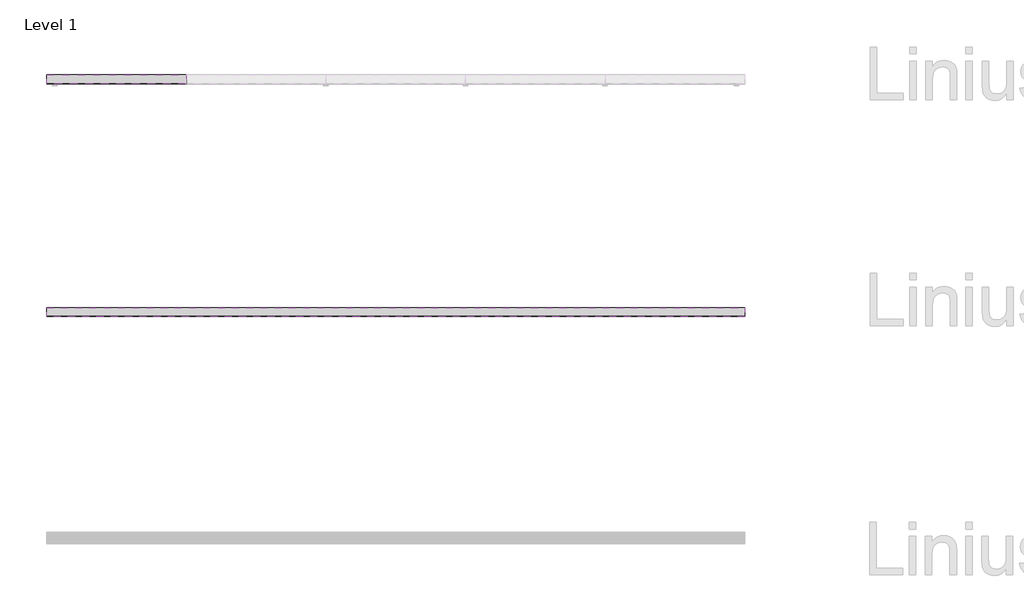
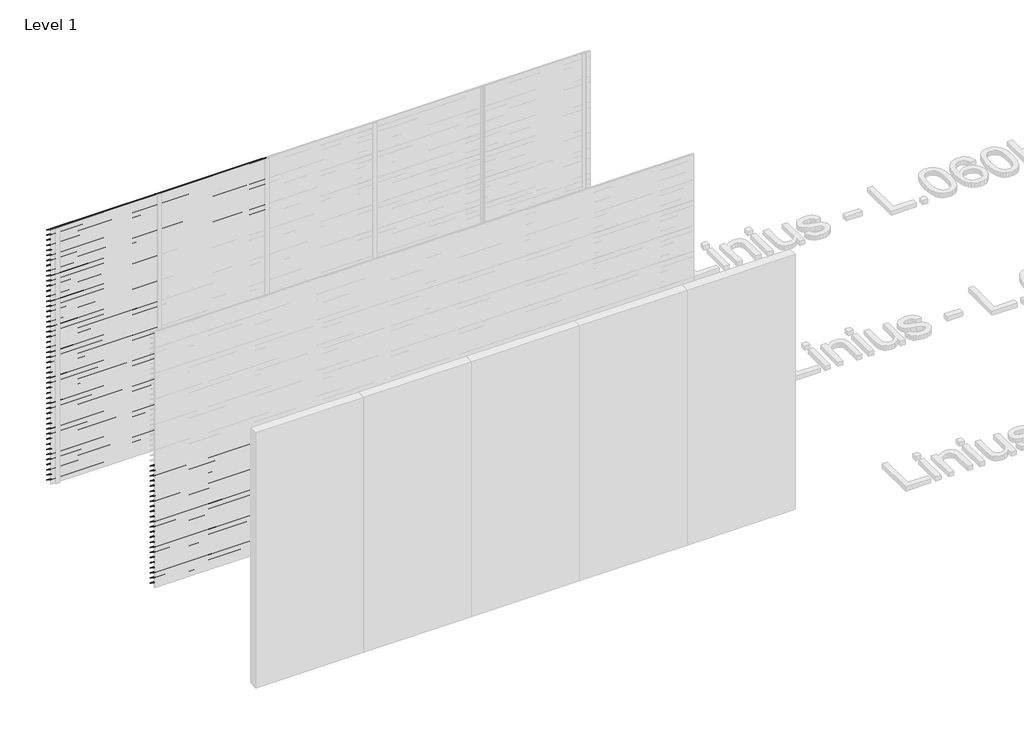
# One storey, part 72 of 153: 85 proxies.
"""IFC4 building model written with IfcOpenShell, lengths in millimetres."""

from ifc_helpers import new_model, si_unit, frame, origin, place, context, project, spatial, polyline, outline, extrude, element, save

model = new_model("IFC4")

# Units and contexts
model_context = context("Model", 3, world=origin())
ifc_project = project(units=[si_unit("LENGTHUNIT", "METRE", prefix="MILLI")], contexts=[model_context])

# Site, building, storey
site = spatial("IfcSite", under=ifc_project)
building = spatial("IfcBuilding", under=site)
storey = spatial("IfcBuildingStorey", under=building, Name="Level 1", Elevation=0.0)

# Proxies
placement = place(None, origin())
element("IfcBuildingElementProxy", 1, Name="Wall Sweeps", at=placement, inside=storey, context=model_context, shape_type="SweptSolid", body=[
    extrude(outline(polyline([(44061.0540136, 2946.0), (44061.0540136, 2940.0), (44059.8040136, 2940.7216933), (44059.8040136, 2945.2538091), (43983.0540136, 2993.9915103), (43983.0540136, 3000.0), (43984.3040136, 3000.0), (43984.3040136, 2994.7377012), (44061.0540136, 2946.0)])), frame((466.6208097, 0.0, 0.0), z_axis=(1.0, 0.0, 0.0), x_axis=(0.0, 1.0, 0.0)), (0.0, 0.0, 1.0), 1200.0000002),
])
element("IfcBuildingElementProxy", 2, Name="Wall Sweeps", at=placement, inside=storey, context=model_context, shape_type="SweptSolid", body=[
    extrude(outline(polyline([(44061.0540136, 2886.0), (44061.0540136, 2880.0), (44059.8040136, 2880.7216933), (44059.8040136, 2885.2538091), (43983.0540136, 2933.9915103), (43983.0540136, 2940.0), (43984.3040136, 2940.0), (43984.3040136, 2934.7377012), (44061.0540136, 2886.0)])), frame((466.6208097, 0.0, 0.0), z_axis=(1.0, 0.0, 0.0), x_axis=(0.0, 1.0, 0.0)), (0.0, 0.0, 1.0), 1200.0000002),
])
element("IfcBuildingElementProxy", 3, Name="Wall Sweeps", at=placement, inside=storey, context=model_context, shape_type="SweptSolid", body=[
    extrude(outline(polyline([(44061.0540136, 2826.0), (44061.0540136, 2820.0), (44059.8040136, 2820.7216933), (44059.8040136, 2825.2538091), (43983.0540136, 2873.9915103), (43983.0540136, 2880.0), (43984.3040136, 2880.0), (43984.3040136, 2874.7377012), (44061.0540136, 2826.0)])), frame((466.6208097, 0.0, 0.0), z_axis=(1.0, 0.0, 0.0), x_axis=(0.0, 1.0, 0.0)), (0.0, 0.0, 1.0), 1200.0000002),
])
element("IfcBuildingElementProxy", 4, Name="Wall Sweeps", at=placement, inside=storey, context=model_context, shape_type="SweptSolid", body=[
    extrude(outline(polyline([(44061.0540136, 2766.0), (44061.0540136, 2760.0), (44059.8040136, 2760.7216933), (44059.8040136, 2765.2538091), (43983.0540136, 2813.9915103), (43983.0540136, 2820.0), (43984.3040136, 2820.0), (43984.3040136, 2814.7377012), (44061.0540136, 2766.0)])), frame((466.6208097, 0.0, 0.0), z_axis=(1.0, 0.0, 0.0), x_axis=(0.0, 1.0, 0.0)), (0.0, 0.0, 1.0), 1200.0000002),
])
element("IfcBuildingElementProxy", 5, Name="Wall Sweeps", at=placement, inside=storey, context=model_context, shape_type="SweptSolid", body=[
    extrude(outline(polyline([(44061.0540136, 2706.0), (44061.0540136, 2700.0), (44059.8040136, 2700.7216933), (44059.8040136, 2705.2538091), (43983.0540136, 2753.9915103), (43983.0540136, 2760.0), (43984.3040136, 2760.0), (43984.3040136, 2754.7377012), (44061.0540136, 2706.0)])), frame((466.6208097, 0.0, 0.0), z_axis=(1.0, 0.0, 0.0), x_axis=(0.0, 1.0, 0.0)), (0.0, 0.0, 1.0), 1200.0000002),
])
element("IfcBuildingElementProxy", 6, Name="Wall Sweeps", at=placement, inside=storey, context=model_context, shape_type="SweptSolid", body=[
    extrude(outline(polyline([(44061.0540136, 2646.0), (44061.0540136, 2640.0), (44059.8040136, 2640.7216933), (44059.8040136, 2645.2538091), (43983.0540136, 2693.9915103), (43983.0540136, 2700.0), (43984.3040136, 2700.0), (43984.3040136, 2694.7377012), (44061.0540136, 2646.0)])), frame((466.6208097, 0.0, 0.0), z_axis=(1.0, 0.0, 0.0), x_axis=(0.0, 1.0, 0.0)), (0.0, 0.0, 1.0), 1200.0000002),
])
element("IfcBuildingElementProxy", 7, Name="Wall Sweeps", at=placement, inside=storey, context=model_context, shape_type="SweptSolid", body=[
    extrude(outline(polyline([(44061.0540136, 2586.0), (44061.0540136, 2580.0), (44059.8040136, 2580.7216933), (44059.8040136, 2585.2538091), (43983.0540136, 2633.9915103), (43983.0540136, 2640.0), (43984.3040136, 2640.0), (43984.3040136, 2634.7377012), (44061.0540136, 2586.0)])), frame((466.6208097, 0.0, 0.0), z_axis=(1.0, 0.0, 0.0), x_axis=(0.0, 1.0, 0.0)), (0.0, 0.0, 1.0), 1200.0000002),
])
element("IfcBuildingElementProxy", 8, Name="Wall Sweeps", at=placement, inside=storey, context=model_context, shape_type="SweptSolid", body=[
    extrude(outline(polyline([(44061.0540136, 2526.0), (44061.0540136, 2520.0), (44059.8040136, 2520.7216933), (44059.8040136, 2525.2538091), (43983.0540136, 2573.9915103), (43983.0540136, 2580.0), (43984.3040136, 2580.0), (43984.3040136, 2574.7377012), (44061.0540136, 2526.0)])), frame((466.6208097, 0.0, 0.0), z_axis=(1.0, 0.0, 0.0), x_axis=(0.0, 1.0, 0.0)), (0.0, 0.0, 1.0), 1200.0000002),
])
element("IfcBuildingElementProxy", 9, Name="Wall Sweeps", at=placement, inside=storey, context=model_context, shape_type="SweptSolid", body=[
    extrude(outline(polyline([(44061.0540136, 2466.0), (44061.0540136, 2460.0), (44059.8040136, 2460.7216933), (44059.8040136, 2465.2538091), (43983.0540136, 2513.9915103), (43983.0540136, 2520.0), (43984.3040136, 2520.0), (43984.3040136, 2514.7377012), (44061.0540136, 2466.0)])), frame((466.6208097, 0.0, 0.0), z_axis=(1.0, 0.0, 0.0), x_axis=(0.0, 1.0, 0.0)), (0.0, 0.0, 1.0), 1200.0000002),
])
element("IfcBuildingElementProxy", 10, Name="Wall Sweeps", at=placement, inside=storey, context=model_context, shape_type="SweptSolid", body=[
    extrude(outline(polyline([(44061.0540136, 2406.0), (44061.0540136, 2400.0), (44059.8040136, 2400.7216933), (44059.8040136, 2405.2538091), (43983.0540136, 2453.9915103), (43983.0540136, 2460.0), (43984.3040136, 2460.0), (43984.3040136, 2454.7377012), (44061.0540136, 2406.0)])), frame((466.6208097, 0.0, 0.0), z_axis=(1.0, 0.0, 0.0), x_axis=(0.0, 1.0, 0.0)), (0.0, 0.0, 1.0), 1200.0000002),
])
element("IfcBuildingElementProxy", 11, Name="Wall Sweeps", at=placement, inside=storey, context=model_context, shape_type="SweptSolid", body=[
    extrude(outline(polyline([(44061.0540136, 2346.0), (44061.0540136, 2340.0), (44059.8040136, 2340.7216933), (44059.8040136, 2345.2538091), (43983.0540136, 2393.9915103), (43983.0540136, 2400.0), (43984.3040136, 2400.0), (43984.3040136, 2394.7377012), (44061.0540136, 2346.0)])), frame((466.6208097, 0.0, 0.0), z_axis=(1.0, 0.0, 0.0), x_axis=(0.0, 1.0, 0.0)), (0.0, 0.0, 1.0), 1200.0000002),
])
element("IfcBuildingElementProxy", 12, Name="Wall Sweeps", at=placement, inside=storey, context=model_context, shape_type="SweptSolid", body=[
    extrude(outline(polyline([(44061.0540136, 2286.0), (44061.0540136, 2280.0), (44059.8040136, 2280.7216933), (44059.8040136, 2285.2538091), (43983.0540136, 2333.9915103), (43983.0540136, 2340.0), (43984.3040136, 2340.0), (43984.3040136, 2334.7377012), (44061.0540136, 2286.0)])), frame((466.6208097, 0.0, 0.0), z_axis=(1.0, 0.0, 0.0), x_axis=(0.0, 1.0, 0.0)), (0.0, 0.0, 1.0), 1200.0000002),
])
element("IfcBuildingElementProxy", 13, Name="Wall Sweeps", at=placement, inside=storey, context=model_context, shape_type="SweptSolid", body=[
    extrude(outline(polyline([(44061.0540136, 2226.0), (44061.0540136, 2220.0), (44059.8040136, 2220.7216933), (44059.8040136, 2225.2538091), (43983.0540136, 2273.9915103), (43983.0540136, 2280.0), (43984.3040136, 2280.0), (43984.3040136, 2274.7377012), (44061.0540136, 2226.0)])), frame((466.6208097, 0.0, 0.0), z_axis=(1.0, 0.0, 0.0), x_axis=(0.0, 1.0, 0.0)), (0.0, 0.0, 1.0), 1200.0000002),
])
element("IfcBuildingElementProxy", 14, Name="Wall Sweeps", at=placement, inside=storey, context=model_context, shape_type="SweptSolid", body=[
    extrude(outline(polyline([(44061.0540136, 2166.0), (44061.0540136, 2160.0), (44059.8040136, 2160.7216933), (44059.8040136, 2165.2538091), (43983.0540136, 2213.9915103), (43983.0540136, 2220.0), (43984.3040136, 2220.0), (43984.3040136, 2214.7377012), (44061.0540136, 2166.0)])), frame((466.6208097, 0.0, 0.0), z_axis=(1.0, 0.0, 0.0), x_axis=(0.0, 1.0, 0.0)), (0.0, 0.0, 1.0), 1200.0000002),
])
element("IfcBuildingElementProxy", 15, Name="Wall Sweeps", at=placement, inside=storey, context=model_context, shape_type="SweptSolid", body=[
    extrude(outline(polyline([(44061.0540136, 2106.0), (44061.0540136, 2100.0), (44059.8040136, 2100.7216933), (44059.8040136, 2105.2538091), (43983.0540136, 2153.9915103), (43983.0540136, 2160.0), (43984.3040136, 2160.0), (43984.3040136, 2154.7377012), (44061.0540136, 2106.0)])), frame((466.6208097, 0.0, 0.0), z_axis=(1.0, 0.0, 0.0), x_axis=(0.0, 1.0, 0.0)), (0.0, 0.0, 1.0), 1200.0000002),
])
element("IfcBuildingElementProxy", 16, Name="Wall Sweeps", at=placement, inside=storey, context=model_context, shape_type="SweptSolid", body=[
    extrude(outline(polyline([(44061.0540136, 2046.0), (44061.0540136, 2040.0), (44059.8040136, 2040.7216933), (44059.8040136, 2045.2538091), (43983.0540136, 2093.9915103), (43983.0540136, 2100.0), (43984.3040136, 2100.0), (43984.3040136, 2094.7377012), (44061.0540136, 2046.0)])), frame((466.6208097, 0.0, 0.0), z_axis=(1.0, 0.0, 0.0), x_axis=(0.0, 1.0, 0.0)), (0.0, 0.0, 1.0), 1200.0000002),
])
element("IfcBuildingElementProxy", 17, Name="Wall Sweeps", at=placement, inside=storey, context=model_context, shape_type="SweptSolid", body=[
    extrude(outline(polyline([(44061.0540136, 1986.0), (44061.0540136, 1980.0), (44059.8040136, 1980.7216933), (44059.8040136, 1985.2538091), (43983.0540136, 2033.9915103), (43983.0540136, 2040.0), (43984.3040136, 2040.0), (43984.3040136, 2034.7377012), (44061.0540136, 1986.0)])), frame((466.6208097, 0.0, 0.0), z_axis=(1.0, 0.0, 0.0), x_axis=(0.0, 1.0, 0.0)), (0.0, 0.0, 1.0), 1200.0000002),
])
element("IfcBuildingElementProxy", 18, Name="Wall Sweeps", at=placement, inside=storey, context=model_context, shape_type="SweptSolid", body=[
    extrude(outline(polyline([(44061.0540136, 1926.0), (44061.0540136, 1920.0), (44059.8040136, 1920.7216933), (44059.8040136, 1925.2538091), (43983.0540136, 1973.9915103), (43983.0540136, 1980.0), (43984.3040136, 1980.0), (43984.3040136, 1974.7377012), (44061.0540136, 1926.0)])), frame((466.6208097, 0.0, 0.0), z_axis=(1.0, 0.0, 0.0), x_axis=(0.0, 1.0, 0.0)), (0.0, 0.0, 1.0), 1200.0000002),
])
element("IfcBuildingElementProxy", 19, Name="Wall Sweeps", at=placement, inside=storey, context=model_context, shape_type="SweptSolid", body=[
    extrude(outline(polyline([(44061.0540136, 1866.0), (44061.0540136, 1860.0), (44059.8040136, 1860.7216933), (44059.8040136, 1865.2538091), (43983.0540136, 1913.9915103), (43983.0540136, 1920.0), (43984.3040136, 1920.0), (43984.3040136, 1914.7377012), (44061.0540136, 1866.0)])), frame((466.6208097, 0.0, 0.0), z_axis=(1.0, 0.0, 0.0), x_axis=(0.0, 1.0, 0.0)), (0.0, 0.0, 1.0), 1200.0000002),
])
element("IfcBuildingElementProxy", 20, Name="Wall Sweeps", at=placement, inside=storey, context=model_context, shape_type="SweptSolid", body=[
    extrude(outline(polyline([(44061.0540136, 1806.0), (44061.0540136, 1800.0), (44059.8040136, 1800.7216933), (44059.8040136, 1805.2538091), (43983.0540136, 1853.9915103), (43983.0540136, 1860.0), (43984.3040136, 1860.0), (43984.3040136, 1854.7377012), (44061.0540136, 1806.0)])), frame((466.6208097, 0.0, 0.0), z_axis=(1.0, 0.0, 0.0), x_axis=(0.0, 1.0, 0.0)), (0.0, 0.0, 1.0), 1200.0000002),
])
element("IfcBuildingElementProxy", 21, Name="Wall Sweeps", at=placement, inside=storey, context=model_context, shape_type="SweptSolid", body=[
    extrude(outline(polyline([(44061.0540136, 1746.0), (44061.0540136, 1740.0), (44059.8040136, 1740.7216933), (44059.8040136, 1745.2538091), (43983.0540136, 1793.9915103), (43983.0540136, 1800.0), (43984.3040136, 1800.0), (43984.3040136, 1794.7377012), (44061.0540136, 1746.0)])), frame((466.6208097, 0.0, 0.0), z_axis=(1.0, 0.0, 0.0), x_axis=(0.0, 1.0, 0.0)), (0.0, 0.0, 1.0), 1200.0000002),
])
element("IfcBuildingElementProxy", 22, Name="Wall Sweeps", at=placement, inside=storey, context=model_context, shape_type="SweptSolid", body=[
    extrude(outline(polyline([(44061.0540136, 1686.0), (44061.0540136, 1680.0), (44059.8040136, 1680.7216933), (44059.8040136, 1685.2538091), (43983.0540136, 1733.9915103), (43983.0540136, 1740.0), (43984.3040136, 1740.0), (43984.3040136, 1734.7377012), (44061.0540136, 1686.0)])), frame((466.6208097, 0.0, 0.0), z_axis=(1.0, 0.0, 0.0), x_axis=(0.0, 1.0, 0.0)), (0.0, 0.0, 1.0), 1200.0000002),
])
element("IfcBuildingElementProxy", 23, Name="Wall Sweeps", at=placement, inside=storey, context=model_context, shape_type="SweptSolid", body=[
    extrude(outline(polyline([(44061.0540136, 1626.0), (44061.0540136, 1620.0), (44059.8040136, 1620.7216933), (44059.8040136, 1625.2538091), (43983.0540136, 1673.9915103), (43983.0540136, 1680.0), (43984.3040136, 1680.0), (43984.3040136, 1674.7377012), (44061.0540136, 1626.0)])), frame((466.6208097, 0.0, 0.0), z_axis=(1.0, 0.0, 0.0), x_axis=(0.0, 1.0, 0.0)), (0.0, 0.0, 1.0), 1200.0000002),
])
element("IfcBuildingElementProxy", 24, Name="Wall Sweeps", at=placement, inside=storey, context=model_context, shape_type="SweptSolid", body=[
    extrude(outline(polyline([(44061.0540136, 1566.0), (44061.0540136, 1560.0), (44059.8040136, 1560.7216933), (44059.8040136, 1565.2538091), (43983.0540136, 1613.9915103), (43983.0540136, 1620.0), (43984.3040136, 1620.0), (43984.3040136, 1614.7377012), (44061.0540136, 1566.0)])), frame((466.6208097, 0.0, 0.0), z_axis=(1.0, 0.0, 0.0), x_axis=(0.0, 1.0, 0.0)), (0.0, 0.0, 1.0), 1200.0000002),
])
element("IfcBuildingElementProxy", 25, Name="Wall Sweeps", at=placement, inside=storey, context=model_context, shape_type="SweptSolid", body=[
    extrude(outline(polyline([(44061.0540136, 1506.0), (44061.0540136, 1500.0), (44059.8040136, 1500.7216933), (44059.8040136, 1505.2538091), (43983.0540136, 1553.9915103), (43983.0540136, 1560.0), (43984.3040136, 1560.0), (43984.3040136, 1554.7377012), (44061.0540136, 1506.0)])), frame((466.6208097, 0.0, 0.0), z_axis=(1.0, 0.0, 0.0), x_axis=(0.0, 1.0, 0.0)), (0.0, 0.0, 1.0), 1200.0000002),
])
element("IfcBuildingElementProxy", 26, Name="Wall Sweeps", at=placement, inside=storey, context=model_context, shape_type="SweptSolid", body=[
    extrude(outline(polyline([(44061.0540136, 1446.0), (44061.0540136, 1440.0), (44059.8040136, 1440.7216933), (44059.8040136, 1445.2538091), (43983.0540136, 1493.9915103), (43983.0540136, 1500.0), (43984.3040136, 1500.0), (43984.3040136, 1494.7377012), (44061.0540136, 1446.0)])), frame((466.6208097, 0.0, 0.0), z_axis=(1.0, 0.0, 0.0), x_axis=(0.0, 1.0, 0.0)), (0.0, 0.0, 1.0), 1200.0000002),
])
element("IfcBuildingElementProxy", 27, Name="Wall Sweeps", at=placement, inside=storey, context=model_context, shape_type="SweptSolid", body=[
    extrude(outline(polyline([(44061.0540136, 1386.0), (44061.0540136, 1380.0), (44059.8040136, 1380.7216933), (44059.8040136, 1385.2538091), (43983.0540136, 1433.9915103), (43983.0540136, 1440.0), (43984.3040136, 1440.0), (43984.3040136, 1434.7377012), (44061.0540136, 1386.0)])), frame((466.6208097, 0.0, 0.0), z_axis=(1.0, 0.0, 0.0), x_axis=(0.0, 1.0, 0.0)), (0.0, 0.0, 1.0), 1200.0000002),
])
element("IfcBuildingElementProxy", 28, Name="Wall Sweeps", at=placement, inside=storey, context=model_context, shape_type="SweptSolid", body=[
    extrude(outline(polyline([(44061.0540136, 1326.0), (44061.0540136, 1320.0), (44059.8040136, 1320.7216933), (44059.8040136, 1325.2538091), (43983.0540136, 1373.9915103), (43983.0540136, 1380.0), (43984.3040136, 1380.0), (43984.3040136, 1374.7377012), (44061.0540136, 1326.0)])), frame((466.6208097, 0.0, 0.0), z_axis=(1.0, 0.0, 0.0), x_axis=(0.0, 1.0, 0.0)), (0.0, 0.0, 1.0), 1200.0000002),
])
element("IfcBuildingElementProxy", 29, Name="Wall Sweeps", at=placement, inside=storey, context=model_context, shape_type="SweptSolid", body=[
    extrude(outline(polyline([(44061.0540136, 1266.0), (44061.0540136, 1260.0), (44059.8040136, 1260.7216933), (44059.8040136, 1265.2538091), (43983.0540136, 1313.9915103), (43983.0540136, 1320.0), (43984.3040136, 1320.0), (43984.3040136, 1314.7377012), (44061.0540136, 1266.0)])), frame((466.6208097, 0.0, 0.0), z_axis=(1.0, 0.0, 0.0), x_axis=(0.0, 1.0, 0.0)), (0.0, 0.0, 1.0), 1200.0000002),
])
element("IfcBuildingElementProxy", 30, Name="Wall Sweeps", at=placement, inside=storey, context=model_context, shape_type="SweptSolid", body=[
    extrude(outline(polyline([(44061.0540136, 1206.0), (44061.0540136, 1200.0), (44059.8040136, 1200.7216933), (44059.8040136, 1205.2538091), (43983.0540136, 1253.9915103), (43983.0540136, 1260.0), (43984.3040136, 1260.0), (43984.3040136, 1254.7377012), (44061.0540136, 1206.0)])), frame((466.6208097, 0.0, 0.0), z_axis=(1.0, 0.0, 0.0), x_axis=(0.0, 1.0, 0.0)), (0.0, 0.0, 1.0), 1200.0000002),
])
element("IfcBuildingElementProxy", 31, Name="Wall Sweeps", at=placement, inside=storey, context=model_context, shape_type="SweptSolid", body=[
    extrude(outline(polyline([(44061.0540136, 1146.0), (44061.0540136, 1140.0), (44059.8040136, 1140.7216933), (44059.8040136, 1145.2538091), (43983.0540136, 1193.9915103), (43983.0540136, 1200.0), (43984.3040136, 1200.0), (43984.3040136, 1194.7377012), (44061.0540136, 1146.0)])), frame((466.6208097, 0.0, 0.0), z_axis=(1.0, 0.0, 0.0), x_axis=(0.0, 1.0, 0.0)), (0.0, 0.0, 1.0), 1200.0000002),
])
element("IfcBuildingElementProxy", 32, Name="Wall Sweeps", at=placement, inside=storey, context=model_context, shape_type="SweptSolid", body=[
    extrude(outline(polyline([(44061.0540136, 1086.0), (44061.0540136, 1080.0), (44059.8040136, 1080.7216933), (44059.8040136, 1085.2538091), (43983.0540136, 1133.9915103), (43983.0540136, 1140.0), (43984.3040136, 1140.0), (43984.3040136, 1134.7377012), (44061.0540136, 1086.0)])), frame((466.6208097, 0.0, 0.0), z_axis=(1.0, 0.0, 0.0), x_axis=(0.0, 1.0, 0.0)), (0.0, 0.0, 1.0), 1200.0000002),
])
element("IfcBuildingElementProxy", 33, Name="Wall Sweeps", at=placement, inside=storey, context=model_context, shape_type="SweptSolid", body=[
    extrude(outline(polyline([(44061.0540136, 1026.0), (44061.0540136, 1020.0), (44059.8040136, 1020.7216933), (44059.8040136, 1025.2538091), (43983.0540136, 1073.9915103), (43983.0540136, 1080.0), (43984.3040136, 1080.0), (43984.3040136, 1074.7377012), (44061.0540136, 1026.0)])), frame((466.6208097, 0.0, 0.0), z_axis=(1.0, 0.0, 0.0), x_axis=(0.0, 1.0, 0.0)), (0.0, 0.0, 1.0), 1200.0000002),
])
element("IfcBuildingElementProxy", 34, Name="Wall Sweeps", at=placement, inside=storey, context=model_context, shape_type="SweptSolid", body=[
    extrude(outline(polyline([(44061.0540136, 966.0), (44061.0540136, 960.0), (44059.8040136, 960.7216933), (44059.8040136, 965.2538091), (43983.0540136, 1013.9915103), (43983.0540136, 1020.0), (43984.3040136, 1020.0), (43984.3040136, 1014.7377012), (44061.0540136, 966.0)])), frame((466.6208097, 0.0, 0.0), z_axis=(1.0, 0.0, 0.0), x_axis=(0.0, 1.0, 0.0)), (0.0, 0.0, 1.0), 1200.0000002),
])
element("IfcBuildingElementProxy", 35, Name="Wall Sweeps", at=placement, inside=storey, context=model_context, shape_type="SweptSolid", body=[
    extrude(outline(polyline([(44061.0540136, 906.0), (44061.0540136, 900.0), (44059.8040136, 900.7216933), (44059.8040136, 905.2538091), (43983.0540136, 953.9915103), (43983.0540136, 960.0), (43984.3040136, 960.0), (43984.3040136, 954.7377012), (44061.0540136, 906.0)])), frame((466.6208097, 0.0, 0.0), z_axis=(1.0, 0.0, 0.0), x_axis=(0.0, 1.0, 0.0)), (0.0, 0.0, 1.0), 1200.0000002),
])
element("IfcBuildingElementProxy", 36, Name="Wall Sweeps", at=placement, inside=storey, context=model_context, shape_type="SweptSolid", body=[
    extrude(outline(polyline([(44061.0540136, 846.0), (44061.0540136, 840.0), (44059.8040136, 840.7216933), (44059.8040136, 845.2538091), (43983.0540136, 893.9915103), (43983.0540136, 900.0), (43984.3040136, 900.0), (43984.3040136, 894.7377012), (44061.0540136, 846.0)])), frame((466.6208097, 0.0, 0.0), z_axis=(1.0, 0.0, 0.0), x_axis=(0.0, 1.0, 0.0)), (0.0, 0.0, 1.0), 1200.0000002),
])
element("IfcBuildingElementProxy", 37, Name="Wall Sweeps", at=placement, inside=storey, context=model_context, shape_type="SweptSolid", body=[
    extrude(outline(polyline([(44061.0540136, 786.0), (44061.0540136, 780.0), (44059.8040136, 780.7216933), (44059.8040136, 785.2538091), (43983.0540136, 833.9915103), (43983.0540136, 840.0), (43984.3040136, 840.0), (43984.3040136, 834.7377012), (44061.0540136, 786.0)])), frame((466.6208097, 0.0, 0.0), z_axis=(1.0, 0.0, 0.0), x_axis=(0.0, 1.0, 0.0)), (0.0, 0.0, 1.0), 1200.0000002),
])
element("IfcBuildingElementProxy", 38, Name="Wall Sweeps", at=placement, inside=storey, context=model_context, shape_type="SweptSolid", body=[
    extrude(outline(polyline([(44061.0540136, 726.0), (44061.0540136, 720.0), (44059.8040136, 720.7216933), (44059.8040136, 725.2538091), (43983.0540136, 773.9915103), (43983.0540136, 780.0), (43984.3040136, 780.0), (43984.3040136, 774.7377012), (44061.0540136, 726.0)])), frame((466.6208097, 0.0, 0.0), z_axis=(1.0, 0.0, 0.0), x_axis=(0.0, 1.0, 0.0)), (0.0, 0.0, 1.0), 1200.0000002),
])
element("IfcBuildingElementProxy", 39, Name="Wall Sweeps", at=placement, inside=storey, context=model_context, shape_type="SweptSolid", body=[
    extrude(outline(polyline([(44061.0540136, 666.0), (44061.0540136, 660.0), (44059.8040136, 660.7216933), (44059.8040136, 665.2538091), (43983.0540136, 713.9915103), (43983.0540136, 720.0), (43984.3040136, 720.0), (43984.3040136, 714.7377012), (44061.0540136, 666.0)])), frame((466.6208097, 0.0, 0.0), z_axis=(1.0, 0.0, 0.0), x_axis=(0.0, 1.0, 0.0)), (0.0, 0.0, 1.0), 1200.0000002),
])
element("IfcBuildingElementProxy", 40, Name="Wall Sweeps", at=placement, inside=storey, context=model_context, shape_type="SweptSolid", body=[
    extrude(outline(polyline([(44061.0540136, 606.0), (44061.0540136, 600.0), (44059.8040136, 600.7216933), (44059.8040136, 605.2538091), (43983.0540136, 653.9915103), (43983.0540136, 660.0), (43984.3040136, 660.0), (43984.3040136, 654.7377012), (44061.0540136, 606.0)])), frame((466.6208097, 0.0, 0.0), z_axis=(1.0, 0.0, 0.0), x_axis=(0.0, 1.0, 0.0)), (0.0, 0.0, 1.0), 1200.0000002),
])
element("IfcBuildingElementProxy", 41, Name="Wall Sweeps", at=placement, inside=storey, context=model_context, shape_type="SweptSolid", body=[
    extrude(outline(polyline([(44061.0540136, 546.0), (44061.0540136, 540.0), (44059.8040136, 540.7216933), (44059.8040136, 545.2538091), (43983.0540136, 593.9915103), (43983.0540136, 600.0), (43984.3040136, 600.0), (43984.3040136, 594.7377012), (44061.0540136, 546.0)])), frame((466.6208097, 0.0, 0.0), z_axis=(1.0, 0.0, 0.0), x_axis=(0.0, 1.0, 0.0)), (0.0, 0.0, 1.0), 1200.0000002),
])
element("IfcBuildingElementProxy", 42, Name="Wall Sweeps", at=placement, inside=storey, context=model_context, shape_type="SweptSolid", body=[
    extrude(outline(polyline([(44061.0540136, 486.0), (44061.0540136, 480.0), (44059.8040136, 480.7216933), (44059.8040136, 485.2538091), (43983.0540136, 533.9915103), (43983.0540136, 540.0), (43984.3040136, 540.0), (43984.3040136, 534.7377012), (44061.0540136, 486.0)])), frame((466.6208097, 0.0, 0.0), z_axis=(1.0, 0.0, 0.0), x_axis=(0.0, 1.0, 0.0)), (0.0, 0.0, 1.0), 1200.0000002),
])
element("IfcBuildingElementProxy", 43, Name="Wall Sweeps", at=placement, inside=storey, context=model_context, shape_type="SweptSolid", body=[
    extrude(outline(polyline([(44061.0540136, 426.0), (44061.0540136, 420.0), (44059.8040136, 420.7216933), (44059.8040136, 425.2538091), (43983.0540136, 473.9915103), (43983.0540136, 480.0), (43984.3040136, 480.0), (43984.3040136, 474.7377012), (44061.0540136, 426.0)])), frame((466.6208097, 0.0, 0.0), z_axis=(1.0, 0.0, 0.0), x_axis=(0.0, 1.0, 0.0)), (0.0, 0.0, 1.0), 1200.0000002),
])
element("IfcBuildingElementProxy", 44, Name="Wall Sweeps", at=placement, inside=storey, context=model_context, shape_type="SweptSolid", body=[
    extrude(outline(polyline([(44061.0540136, 366.0), (44061.0540136, 360.0), (44059.8040136, 360.7216933), (44059.8040136, 365.2538091), (43983.0540136, 413.9915103), (43983.0540136, 420.0), (43984.3040136, 420.0), (43984.3040136, 414.7377012), (44061.0540136, 366.0)])), frame((466.6208097, 0.0, 0.0), z_axis=(1.0, 0.0, 0.0), x_axis=(0.0, 1.0, 0.0)), (0.0, 0.0, 1.0), 1200.0000002),
])
element("IfcBuildingElementProxy", 45, Name="Wall Sweeps", at=placement, inside=storey, context=model_context, shape_type="SweptSolid", body=[
    extrude(outline(polyline([(44061.0540136, 306.0), (44061.0540136, 300.0), (44059.8040136, 300.7216933), (44059.8040136, 305.2538091), (43983.0540136, 353.9915103), (43983.0540136, 360.0), (43984.3040136, 360.0), (43984.3040136, 354.7377012), (44061.0540136, 306.0)])), frame((466.6208097, 0.0, 0.0), z_axis=(1.0, 0.0, 0.0), x_axis=(0.0, 1.0, 0.0)), (0.0, 0.0, 1.0), 1200.0000002),
])
element("IfcBuildingElementProxy", 46, Name="Wall Sweeps", at=placement, inside=storey, context=model_context, shape_type="SweptSolid", body=[
    extrude(outline(polyline([(44061.0540136, 246.0), (44061.0540136, 240.0), (44059.8040136, 240.7216933), (44059.8040136, 245.2538091), (43983.0540136, 293.9915103), (43983.0540136, 300.0), (43984.3040136, 300.0), (43984.3040136, 294.7377012), (44061.0540136, 246.0)])), frame((466.6208097, 0.0, 0.0), z_axis=(1.0, 0.0, 0.0), x_axis=(0.0, 1.0, 0.0)), (0.0, 0.0, 1.0), 1200.0000002),
])
element("IfcBuildingElementProxy", 47, Name="Wall Sweeps", at=placement, inside=storey, context=model_context, shape_type="SweptSolid", body=[
    extrude(outline(polyline([(44061.0540136, 186.0), (44061.0540136, 180.0), (44059.8040136, 180.7216933), (44059.8040136, 185.2538091), (43983.0540136, 233.9915103), (43983.0540136, 240.0), (43984.3040136, 240.0), (43984.3040136, 234.7377012), (44061.0540136, 186.0)])), frame((466.6208097, 0.0, 0.0), z_axis=(1.0, 0.0, 0.0), x_axis=(0.0, 1.0, 0.0)), (0.0, 0.0, 1.0), 1200.0000002),
])
element("IfcBuildingElementProxy", 48, Name="Wall Sweeps", at=placement, inside=storey, context=model_context, shape_type="SweptSolid", body=[
    extrude(outline(polyline([(44061.0540136, 126.0), (44061.0540136, 120.0), (44059.8040136, 120.7216933), (44059.8040136, 125.2538091), (43983.0540136, 173.9915103), (43983.0540136, 180.0), (43984.3040136, 180.0), (43984.3040136, 174.7377012), (44061.0540136, 126.0)])), frame((466.6208097, 0.0, 0.0), z_axis=(1.0, 0.0, 0.0), x_axis=(0.0, 1.0, 0.0)), (0.0, 0.0, 1.0), 1200.0000002),
])
element("IfcBuildingElementProxy", 49, Name="Wall Sweeps", at=placement, inside=storey, context=model_context, shape_type="SweptSolid", body=[
    extrude(outline(polyline([(44061.0540136, 66.0), (44061.0540136, 60.0), (44059.8040136, 60.7216933), (44059.8040136, 65.2538091), (43983.0540136, 113.9915103), (43983.0540136, 120.0), (43984.3040136, 120.0), (43984.3040136, 114.7377012), (44061.0540136, 66.0)])), frame((466.6208097, 0.0, 0.0), z_axis=(1.0, 0.0, 0.0), x_axis=(0.0, 1.0, 0.0)), (0.0, 0.0, 1.0), 1200.0000002),
])
element("IfcBuildingElementProxy", 50, Name="Wall Sweeps", at=placement, inside=storey, context=model_context, shape_type="SweptSolid", body=[
    extrude(outline(polyline([(44061.0540136, 6.0), (44061.0540136, 0.0), (44059.8040136, 0.7216933), (44059.8040136, 5.2538091), (43983.0540136, 53.9915103), (43983.0540136, 60.0), (43984.3040136, 60.0), (43984.3040136, 54.7377012), (44061.0540136, 6.0)])), frame((466.6208097, 0.0, 0.0), z_axis=(1.0, 0.0, 0.0), x_axis=(0.0, 1.0, 0.0)), (0.0, 0.0, 1.0), 1200.0000002),
])
element("IfcBuildingElementProxy", 51, Name="Wall Sweeps", at=placement, inside=storey, context=model_context, shape_type="SweptSolid", body=[
    extrude(outline(polyline([(44061.0540136, 2946.0), (44061.0540136, 2940.0), (44059.8040136, 2940.7216933), (44059.8040136, 2945.2538091), (43983.0540136, 2993.9915103), (43983.0540136, 3000.0), (43984.3040136, 3000.0), (43984.3040136, 2994.7377012), (44061.0540136, 2946.0)])), frame((1666.6208099, 0.0, 0.0), z_axis=(1.0, 0.0, 0.0), x_axis=(0.0, 1.0, 0.0)), (0.0, 0.0, 1.0), 1199.9999999),
])
element("IfcBuildingElementProxy", 52, Name="Wall Sweeps", at=placement, inside=storey, context=model_context, shape_type="SweptSolid", body=[
    extrude(outline(polyline([(44061.0540136, 2886.0), (44061.0540136, 2880.0), (44059.8040136, 2880.7216933), (44059.8040136, 2885.2538091), (43983.0540136, 2933.9915103), (43983.0540136, 2940.0), (43984.3040136, 2940.0), (43984.3040136, 2934.7377012), (44061.0540136, 2886.0)])), frame((1666.6208099, 0.0, 0.0), z_axis=(1.0, 0.0, 0.0), x_axis=(0.0, 1.0, 0.0)), (0.0, 0.0, 1.0), 1199.9999999),
])
element("IfcBuildingElementProxy", 53, Name="Wall Sweeps", at=placement, inside=storey, context=model_context, shape_type="SweptSolid", body=[
    extrude(outline(polyline([(44061.0540136, 2826.0), (44061.0540136, 2820.0), (44059.8040136, 2820.7216933), (44059.8040136, 2825.2538091), (43983.0540136, 2873.9915103), (43983.0540136, 2880.0), (43984.3040136, 2880.0), (43984.3040136, 2874.7377012), (44061.0540136, 2826.0)])), frame((1666.6208099, 0.0, 0.0), z_axis=(1.0, 0.0, 0.0), x_axis=(0.0, 1.0, 0.0)), (0.0, 0.0, 1.0), 1199.9999999),
])
element("IfcBuildingElementProxy", 54, Name="Wall Sweeps", at=placement, inside=storey, context=model_context, shape_type="SweptSolid", body=[
    extrude(outline(polyline([(44061.0540136, 2766.0), (44061.0540136, 2760.0), (44059.8040136, 2760.7216933), (44059.8040136, 2765.2538091), (43983.0540136, 2813.9915103), (43983.0540136, 2820.0), (43984.3040136, 2820.0), (43984.3040136, 2814.7377012), (44061.0540136, 2766.0)])), frame((1666.6208099, 0.0, 0.0), z_axis=(1.0, 0.0, 0.0), x_axis=(0.0, 1.0, 0.0)), (0.0, 0.0, 1.0), 1199.9999999),
])
element("IfcBuildingElementProxy", 55, Name="Wall Sweeps", at=placement, inside=storey, context=model_context, shape_type="SweptSolid", body=[
    extrude(outline(polyline([(44061.0540136, 2706.0), (44061.0540136, 2700.0), (44059.8040136, 2700.7216933), (44059.8040136, 2705.2538091), (43983.0540136, 2753.9915103), (43983.0540136, 2760.0), (43984.3040136, 2760.0), (43984.3040136, 2754.7377012), (44061.0540136, 2706.0)])), frame((1666.6208099, 0.0, 0.0), z_axis=(1.0, 0.0, 0.0), x_axis=(0.0, 1.0, 0.0)), (0.0, 0.0, 1.0), 1199.9999999),
])
element("IfcBuildingElementProxy", 56, Name="Wall Sweeps", at=placement, inside=storey, context=model_context, shape_type="SweptSolid", body=[
    extrude(outline(polyline([(44061.0540136, 2646.0), (44061.0540136, 2640.0), (44059.8040136, 2640.7216933), (44059.8040136, 2645.2538091), (43983.0540136, 2693.9915103), (43983.0540136, 2700.0), (43984.3040136, 2700.0), (43984.3040136, 2694.7377012), (44061.0540136, 2646.0)])), frame((1666.6208099, 0.0, 0.0), z_axis=(1.0, 0.0, 0.0), x_axis=(0.0, 1.0, 0.0)), (0.0, 0.0, 1.0), 1199.9999999),
])
element("IfcBuildingElementProxy", 57, Name="Wall Sweeps", at=placement, inside=storey, context=model_context, shape_type="SweptSolid", body=[
    extrude(outline(polyline([(44061.0540136, 2586.0), (44061.0540136, 2580.0), (44059.8040136, 2580.7216933), (44059.8040136, 2585.2538091), (43983.0540136, 2633.9915103), (43983.0540136, 2640.0), (43984.3040136, 2640.0), (43984.3040136, 2634.7377012), (44061.0540136, 2586.0)])), frame((1666.6208099, 0.0, 0.0), z_axis=(1.0, 0.0, 0.0), x_axis=(0.0, 1.0, 0.0)), (0.0, 0.0, 1.0), 1199.9999999),
])
element("IfcBuildingElementProxy", 58, Name="Wall Sweeps", at=placement, inside=storey, context=model_context, shape_type="SweptSolid", body=[
    extrude(outline(polyline([(44061.0540136, 2526.0), (44061.0540136, 2520.0), (44059.8040136, 2520.7216933), (44059.8040136, 2525.2538091), (43983.0540136, 2573.9915103), (43983.0540136, 2580.0), (43984.3040136, 2580.0), (43984.3040136, 2574.7377012), (44061.0540136, 2526.0)])), frame((1666.6208099, 0.0, 0.0), z_axis=(1.0, 0.0, 0.0), x_axis=(0.0, 1.0, 0.0)), (0.0, 0.0, 1.0), 1199.9999999),
])
element("IfcBuildingElementProxy", 59, Name="Wall Sweeps", at=placement, inside=storey, context=model_context, shape_type="SweptSolid", body=[
    extrude(outline(polyline([(44061.0540136, 2466.0), (44061.0540136, 2460.0), (44059.8040136, 2460.7216933), (44059.8040136, 2465.2538091), (43983.0540136, 2513.9915103), (43983.0540136, 2520.0), (43984.3040136, 2520.0), (43984.3040136, 2514.7377012), (44061.0540136, 2466.0)])), frame((1666.6208099, 0.0, 0.0), z_axis=(1.0, 0.0, 0.0), x_axis=(0.0, 1.0, 0.0)), (0.0, 0.0, 1.0), 1199.9999999),
])
element("IfcBuildingElementProxy", 60, Name="Wall Sweeps", at=placement, inside=storey, context=model_context, shape_type="SweptSolid", body=[
    extrude(outline(polyline([(44061.0540136, 2406.0), (44061.0540136, 2400.0), (44059.8040136, 2400.7216933), (44059.8040136, 2405.2538091), (43983.0540136, 2453.9915103), (43983.0540136, 2460.0), (43984.3040136, 2460.0), (43984.3040136, 2454.7377012), (44061.0540136, 2406.0)])), frame((1666.6208099, 0.0, 0.0), z_axis=(1.0, 0.0, 0.0), x_axis=(0.0, 1.0, 0.0)), (0.0, 0.0, 1.0), 1199.9999999),
])
element("IfcBuildingElementProxy", 61, Name="Wall Sweeps", at=placement, inside=storey, context=model_context, shape_type="SweptSolid", body=[
    extrude(outline(polyline([(44061.0540136, 2346.0), (44061.0540136, 2340.0), (44059.8040136, 2340.7216933), (44059.8040136, 2345.2538091), (43983.0540136, 2393.9915103), (43983.0540136, 2400.0), (43984.3040136, 2400.0), (43984.3040136, 2394.7377012), (44061.0540136, 2346.0)])), frame((1666.6208099, 0.0, 0.0), z_axis=(1.0, 0.0, 0.0), x_axis=(0.0, 1.0, 0.0)), (0.0, 0.0, 1.0), 1199.9999999),
])
element("IfcBuildingElementProxy", 62, Name="Wall Sweeps", at=placement, inside=storey, context=model_context, shape_type="SweptSolid", body=[
    extrude(outline(polyline([(42061.0540136, 1386.0), (42061.0540136, 1380.0), (42059.8040136, 1380.7216933), (42059.8040136, 1385.2538091), (41983.0540136, 1433.9915103), (41983.0540136, 1440.0), (41984.3040136, 1440.0), (41984.3040136, 1434.7377012), (42061.0540136, 1386.0)])), frame((466.6208097, 0.0, 0.0), z_axis=(1.0, 0.0, 0.0), x_axis=(0.0, 1.0, 0.0)), (0.0, 0.0, 1.0), 6000.0),
])
element("IfcBuildingElementProxy", 63, Name="Wall Sweeps", at=placement, inside=storey, context=model_context, shape_type="SweptSolid", body=[
    extrude(outline(polyline([(42061.0540136, 1326.0), (42061.0540136, 1320.0), (42059.8040136, 1320.7216933), (42059.8040136, 1325.2538091), (41983.0540136, 1373.9915103), (41983.0540136, 1380.0), (41984.3040136, 1380.0), (41984.3040136, 1374.7377012), (42061.0540136, 1326.0)])), frame((466.6208097, 0.0, 0.0), z_axis=(1.0, 0.0, 0.0), x_axis=(0.0, 1.0, 0.0)), (0.0, 0.0, 1.0), 6000.0),
])
element("IfcBuildingElementProxy", 64, Name="Wall Sweeps", at=placement, inside=storey, context=model_context, shape_type="SweptSolid", body=[
    extrude(outline(polyline([(42061.0540136, 1266.0), (42061.0540136, 1260.0), (42059.8040136, 1260.7216933), (42059.8040136, 1265.2538091), (41983.0540136, 1313.9915103), (41983.0540136, 1320.0), (41984.3040136, 1320.0), (41984.3040136, 1314.7377012), (42061.0540136, 1266.0)])), frame((466.6208097, 0.0, 0.0), z_axis=(1.0, 0.0, 0.0), x_axis=(0.0, 1.0, 0.0)), (0.0, 0.0, 1.0), 6000.0),
])
element("IfcBuildingElementProxy", 65, Name="Wall Sweeps", at=placement, inside=storey, context=model_context, shape_type="SweptSolid", body=[
    extrude(outline(polyline([(42061.0540136, 1206.0), (42061.0540136, 1200.0), (42059.8040136, 1200.7216933), (42059.8040136, 1205.2538091), (41983.0540136, 1253.9915103), (41983.0540136, 1260.0), (41984.3040136, 1260.0), (41984.3040136, 1254.7377012), (42061.0540136, 1206.0)])), frame((466.6208097, 0.0, 0.0), z_axis=(1.0, 0.0, 0.0), x_axis=(0.0, 1.0, 0.0)), (0.0, 0.0, 1.0), 6000.0),
])
element("IfcBuildingElementProxy", 66, Name="Wall Sweeps", at=placement, inside=storey, context=model_context, shape_type="SweptSolid", body=[
    extrude(outline(polyline([(42061.0540136, 1146.0), (42061.0540136, 1140.0), (42059.8040136, 1140.7216933), (42059.8040136, 1145.2538091), (41983.0540136, 1193.9915103), (41983.0540136, 1200.0), (41984.3040136, 1200.0), (41984.3040136, 1194.7377012), (42061.0540136, 1146.0)])), frame((466.6208097, 0.0, 0.0), z_axis=(1.0, 0.0, 0.0), x_axis=(0.0, 1.0, 0.0)), (0.0, 0.0, 1.0), 6000.0),
])
element("IfcBuildingElementProxy", 67, Name="Wall Sweeps", at=placement, inside=storey, context=model_context, shape_type="SweptSolid", body=[
    extrude(outline(polyline([(42061.0540136, 1086.0), (42061.0540136, 1080.0), (42059.8040136, 1080.7216933), (42059.8040136, 1085.2538091), (41983.0540136, 1133.9915103), (41983.0540136, 1140.0), (41984.3040136, 1140.0), (41984.3040136, 1134.7377012), (42061.0540136, 1086.0)])), frame((466.6208097, 0.0, 0.0), z_axis=(1.0, 0.0, 0.0), x_axis=(0.0, 1.0, 0.0)), (0.0, 0.0, 1.0), 6000.0),
])
element("IfcBuildingElementProxy", 68, Name="Wall Sweeps", at=placement, inside=storey, context=model_context, shape_type="SweptSolid", body=[
    extrude(outline(polyline([(42061.0540136, 1026.0), (42061.0540136, 1020.0), (42059.8040136, 1020.7216933), (42059.8040136, 1025.2538091), (41983.0540136, 1073.9915103), (41983.0540136, 1080.0), (41984.3040136, 1080.0), (41984.3040136, 1074.7377012), (42061.0540136, 1026.0)])), frame((466.6208097, 0.0, 0.0), z_axis=(1.0, 0.0, 0.0), x_axis=(0.0, 1.0, 0.0)), (0.0, 0.0, 1.0), 6000.0),
])
element("IfcBuildingElementProxy", 69, Name="Wall Sweeps", at=placement, inside=storey, context=model_context, shape_type="SweptSolid", body=[
    extrude(outline(polyline([(42061.0540136, 966.0), (42061.0540136, 960.0), (42059.8040136, 960.7216933), (42059.8040136, 965.2538091), (41983.0540136, 1013.9915103), (41983.0540136, 1020.0), (41984.3040136, 1020.0), (41984.3040136, 1014.7377012), (42061.0540136, 966.0)])), frame((466.6208097, 0.0, 0.0), z_axis=(1.0, 0.0, 0.0), x_axis=(0.0, 1.0, 0.0)), (0.0, 0.0, 1.0), 6000.0),
])
element("IfcBuildingElementProxy", 70, Name="Wall Sweeps", at=placement, inside=storey, context=model_context, shape_type="SweptSolid", body=[
    extrude(outline(polyline([(42061.0540136, 906.0), (42061.0540136, 900.0), (42059.8040136, 900.7216933), (42059.8040136, 905.2538091), (41983.0540136, 953.9915103), (41983.0540136, 960.0), (41984.3040136, 960.0), (41984.3040136, 954.7377012), (42061.0540136, 906.0)])), frame((466.6208097, 0.0, 0.0), z_axis=(1.0, 0.0, 0.0), x_axis=(0.0, 1.0, 0.0)), (0.0, 0.0, 1.0), 6000.0),
])
element("IfcBuildingElementProxy", 71, Name="Wall Sweeps", at=placement, inside=storey, context=model_context, shape_type="SweptSolid", body=[
    extrude(outline(polyline([(42061.0540136, 846.0), (42061.0540136, 840.0), (42059.8040136, 840.7216933), (42059.8040136, 845.2538091), (41983.0540136, 893.9915103), (41983.0540136, 900.0), (41984.3040136, 900.0), (41984.3040136, 894.7377012), (42061.0540136, 846.0)])), frame((466.6208097, 0.0, 0.0), z_axis=(1.0, 0.0, 0.0), x_axis=(0.0, 1.0, 0.0)), (0.0, 0.0, 1.0), 6000.0),
])
element("IfcBuildingElementProxy", 72, Name="Wall Sweeps", at=placement, inside=storey, context=model_context, shape_type="SweptSolid", body=[
    extrude(outline(polyline([(42061.0540136, 786.0), (42061.0540136, 780.0), (42059.8040136, 780.7216933), (42059.8040136, 785.2538091), (41983.0540136, 833.9915103), (41983.0540136, 840.0), (41984.3040136, 840.0), (41984.3040136, 834.7377012), (42061.0540136, 786.0)])), frame((466.6208097, 0.0, 0.0), z_axis=(1.0, 0.0, 0.0), x_axis=(0.0, 1.0, 0.0)), (0.0, 0.0, 1.0), 6000.0),
])
element("IfcBuildingElementProxy", 73, Name="Wall Sweeps", at=placement, inside=storey, context=model_context, shape_type="SweptSolid", body=[
    extrude(outline(polyline([(42061.0540136, 726.0), (42061.0540136, 720.0), (42059.8040136, 720.7216933), (42059.8040136, 725.2538091), (41983.0540136, 773.9915103), (41983.0540136, 780.0), (41984.3040136, 780.0), (41984.3040136, 774.7377012), (42061.0540136, 726.0)])), frame((466.6208097, 0.0, 0.0), z_axis=(1.0, 0.0, 0.0), x_axis=(0.0, 1.0, 0.0)), (0.0, 0.0, 1.0), 6000.0),
])
element("IfcBuildingElementProxy", 74, Name="Wall Sweeps", at=placement, inside=storey, context=model_context, shape_type="SweptSolid", body=[
    extrude(outline(polyline([(42061.0540136, 666.0), (42061.0540136, 660.0), (42059.8040136, 660.7216933), (42059.8040136, 665.2538091), (41983.0540136, 713.9915103), (41983.0540136, 720.0), (41984.3040136, 720.0), (41984.3040136, 714.7377012), (42061.0540136, 666.0)])), frame((466.6208097, 0.0, 0.0), z_axis=(1.0, 0.0, 0.0), x_axis=(0.0, 1.0, 0.0)), (0.0, 0.0, 1.0), 6000.0),
])
element("IfcBuildingElementProxy", 75, Name="Wall Sweeps", at=placement, inside=storey, context=model_context, shape_type="SweptSolid", body=[
    extrude(outline(polyline([(42061.0540136, 606.0), (42061.0540136, 600.0), (42059.8040136, 600.7216933), (42059.8040136, 605.2538091), (41983.0540136, 653.9915103), (41983.0540136, 660.0), (41984.3040136, 660.0), (41984.3040136, 654.7377012), (42061.0540136, 606.0)])), frame((466.6208097, 0.0, 0.0), z_axis=(1.0, 0.0, 0.0), x_axis=(0.0, 1.0, 0.0)), (0.0, 0.0, 1.0), 6000.0),
])
element("IfcBuildingElementProxy", 76, Name="Wall Sweeps", at=placement, inside=storey, context=model_context, shape_type="SweptSolid", body=[
    extrude(outline(polyline([(42061.0540136, 546.0), (42061.0540136, 540.0), (42059.8040136, 540.7216933), (42059.8040136, 545.2538091), (41983.0540136, 593.9915103), (41983.0540136, 600.0), (41984.3040136, 600.0), (41984.3040136, 594.7377012), (42061.0540136, 546.0)])), frame((466.6208097, 0.0, 0.0), z_axis=(1.0, 0.0, 0.0), x_axis=(0.0, 1.0, 0.0)), (0.0, 0.0, 1.0), 6000.0),
])
element("IfcBuildingElementProxy", 77, Name="Wall Sweeps", at=placement, inside=storey, context=model_context, shape_type="SweptSolid", body=[
    extrude(outline(polyline([(42061.0540136, 486.0), (42061.0540136, 480.0), (42059.8040136, 480.7216933), (42059.8040136, 485.2538091), (41983.0540136, 533.9915103), (41983.0540136, 540.0), (41984.3040136, 540.0), (41984.3040136, 534.7377012), (42061.0540136, 486.0)])), frame((466.6208097, 0.0, 0.0), z_axis=(1.0, 0.0, 0.0), x_axis=(0.0, 1.0, 0.0)), (0.0, 0.0, 1.0), 6000.0),
])
element("IfcBuildingElementProxy", 78, Name="Wall Sweeps", at=placement, inside=storey, context=model_context, shape_type="SweptSolid", body=[
    extrude(outline(polyline([(42061.0540136, 426.0), (42061.0540136, 420.0), (42059.8040136, 420.7216933), (42059.8040136, 425.2538091), (41983.0540136, 473.9915103), (41983.0540136, 480.0), (41984.3040136, 480.0), (41984.3040136, 474.7377012), (42061.0540136, 426.0)])), frame((466.6208097, 0.0, 0.0), z_axis=(1.0, 0.0, 0.0), x_axis=(0.0, 1.0, 0.0)), (0.0, 0.0, 1.0), 6000.0),
])
element("IfcBuildingElementProxy", 79, Name="Wall Sweeps", at=placement, inside=storey, context=model_context, shape_type="SweptSolid", body=[
    extrude(outline(polyline([(42061.0540136, 366.0), (42061.0540136, 360.0), (42059.8040136, 360.7216933), (42059.8040136, 365.2538091), (41983.0540136, 413.9915103), (41983.0540136, 420.0), (41984.3040136, 420.0), (41984.3040136, 414.7377012), (42061.0540136, 366.0)])), frame((466.6208097, 0.0, 0.0), z_axis=(1.0, 0.0, 0.0), x_axis=(0.0, 1.0, 0.0)), (0.0, 0.0, 1.0), 6000.0),
])
element("IfcBuildingElementProxy", 80, Name="Wall Sweeps", at=placement, inside=storey, context=model_context, shape_type="SweptSolid", body=[
    extrude(outline(polyline([(42061.0540136, 306.0), (42061.0540136, 300.0), (42059.8040136, 300.7216933), (42059.8040136, 305.2538091), (41983.0540136, 353.9915103), (41983.0540136, 360.0), (41984.3040136, 360.0), (41984.3040136, 354.7377012), (42061.0540136, 306.0)])), frame((466.6208097, 0.0, 0.0), z_axis=(1.0, 0.0, 0.0), x_axis=(0.0, 1.0, 0.0)), (0.0, 0.0, 1.0), 6000.0),
])
element("IfcBuildingElementProxy", 81, Name="Wall Sweeps", at=placement, inside=storey, context=model_context, shape_type="SweptSolid", body=[
    extrude(outline(polyline([(42061.0540136, 246.0), (42061.0540136, 240.0), (42059.8040136, 240.7216933), (42059.8040136, 245.2538091), (41983.0540136, 293.9915103), (41983.0540136, 300.0), (41984.3040136, 300.0), (41984.3040136, 294.7377012), (42061.0540136, 246.0)])), frame((466.6208097, 0.0, 0.0), z_axis=(1.0, 0.0, 0.0), x_axis=(0.0, 1.0, 0.0)), (0.0, 0.0, 1.0), 6000.0),
])
element("IfcBuildingElementProxy", 82, Name="Wall Sweeps", at=placement, inside=storey, context=model_context, shape_type="SweptSolid", body=[
    extrude(outline(polyline([(42061.0540136, 186.0), (42061.0540136, 180.0), (42059.8040136, 180.7216933), (42059.8040136, 185.2538091), (41983.0540136, 233.9915103), (41983.0540136, 240.0), (41984.3040136, 240.0), (41984.3040136, 234.7377012), (42061.0540136, 186.0)])), frame((466.6208097, 0.0, 0.0), z_axis=(1.0, 0.0, 0.0), x_axis=(0.0, 1.0, 0.0)), (0.0, 0.0, 1.0), 6000.0),
])
element("IfcBuildingElementProxy", 83, Name="Wall Sweeps", at=placement, inside=storey, context=model_context, shape_type="SweptSolid", body=[
    extrude(outline(polyline([(42061.0540136, 126.0), (42061.0540136, 120.0), (42059.8040136, 120.7216933), (42059.8040136, 125.2538091), (41983.0540136, 173.9915103), (41983.0540136, 180.0), (41984.3040136, 180.0), (41984.3040136, 174.7377012), (42061.0540136, 126.0)])), frame((466.6208097, 0.0, 0.0), z_axis=(1.0, 0.0, 0.0), x_axis=(0.0, 1.0, 0.0)), (0.0, 0.0, 1.0), 6000.0),
])
element("IfcBuildingElementProxy", 84, Name="Wall Sweeps", at=placement, inside=storey, context=model_context, shape_type="SweptSolid", body=[
    extrude(outline(polyline([(42061.0540136, 66.0), (42061.0540136, 60.0), (42059.8040136, 60.7216933), (42059.8040136, 65.2538091), (41983.0540136, 113.9915103), (41983.0540136, 120.0), (41984.3040136, 120.0), (41984.3040136, 114.7377012), (42061.0540136, 66.0)])), frame((466.6208097, 0.0, 0.0), z_axis=(1.0, 0.0, 0.0), x_axis=(0.0, 1.0, 0.0)), (0.0, 0.0, 1.0), 6000.0),
])
element("IfcBuildingElementProxy", 85, Name="Wall Sweeps", at=placement, inside=storey, context=model_context, shape_type="SweptSolid", body=[
    extrude(outline(polyline([(42061.0540136, 6.0), (42061.0540136, 0.0), (42059.8040136, 0.7216933), (42059.8040136, 5.2538091), (41983.0540136, 53.9915103), (41983.0540136, 60.0), (41984.3040136, 60.0), (41984.3040136, 54.7377012), (42061.0540136, 6.0)])), frame((466.6208097, 0.0, 0.0), z_axis=(1.0, 0.0, 0.0), x_axis=(0.0, 1.0, 0.0)), (0.0, 0.0, 1.0), 6000.0),
])

save(model, "model.ifc")
